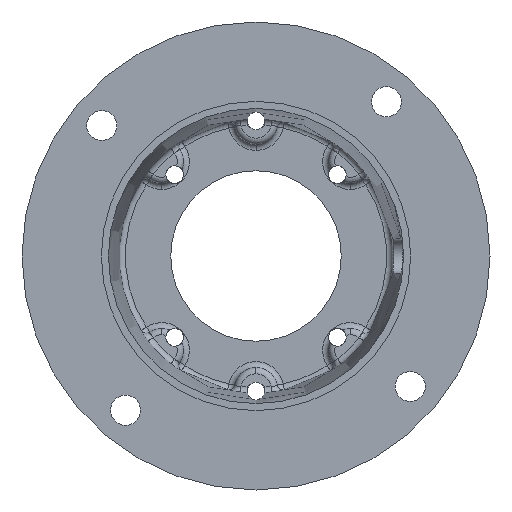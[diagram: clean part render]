
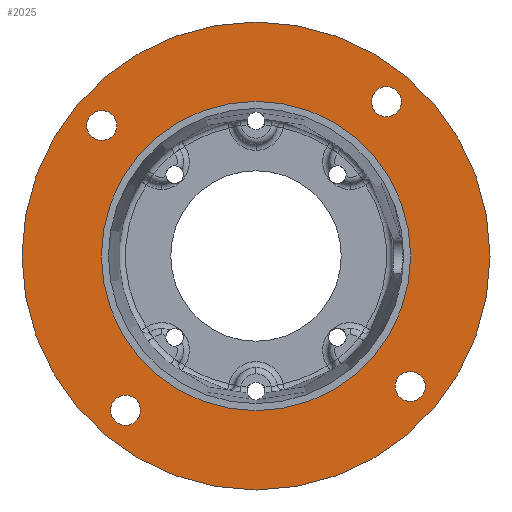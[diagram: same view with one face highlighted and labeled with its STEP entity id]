
A CAD part, front view. The second image highlights one B-rep face of the part: STEP entity #2025.
In plain terms, the highlighted planar face has unit normal (0, -1, 0).
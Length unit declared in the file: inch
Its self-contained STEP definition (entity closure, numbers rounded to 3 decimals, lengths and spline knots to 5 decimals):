
#89 = FACE_BOUND ( 'NONE', #196, .T. ) ;
#136 = ORIENTED_EDGE ( 'NONE', *, *, #2007, .F. ) ;
#196 = EDGE_LOOP ( 'NONE', ( #136, #5390 ) ) ;
#245 = ORIENTED_EDGE ( 'NONE', *, *, #4496, .T. ) ;
#288 = ORIENTED_EDGE ( 'NONE', *, *, #3629, .F. ) ;
#298 = CARTESIAN_POINT ( 'NONE',  ( -1.89861, 0.103, -2.24475 ) ) ;
#452 = ORIENTED_EDGE ( 'NONE', *, *, #2428, .T. ) ;
#536 = DIRECTION ( 'NONE',  ( 0., -1., 0. ) ) ;
#590 = CARTESIAN_POINT ( 'NONE',  ( 0., 0.103, 0. ) ) ;
#658 = CIRCLE ( 'NONE', #6637, 0.21875 ) ;
#665 = DIRECTION ( 'NONE',  ( 0., -1., 0. ) ) ;
#728 = CIRCLE ( 'NONE', #7039, 2.2505 ) ;
#736 = AXIS2_PLACEMENT_3D ( 'NONE', #590, #1851, #6223 ) ;
#852 = AXIS2_PLACEMENT_3D ( 'NONE', #6250, #2506, #6878 ) ;
#924 = DIRECTION ( 'NONE',  ( 0., 0., -1. ) ) ;
#1075 = CARTESIAN_POINT ( 'NONE',  ( -1.89861, 0.103, -2.4635 ) ) ;
#1104 = CARTESIAN_POINT ( 'NONE',  ( 0., 0.103, -3.405 ) ) ;
#1176 = VERTEX_POINT ( 'NONE', #1075 ) ;
#1190 = CIRCLE ( 'NONE', #6295, 0.21875 ) ;
#1257 = CARTESIAN_POINT ( 'NONE',  ( 0., 0.103, -2.2505 ) ) ;
#1456 = VERTEX_POINT ( 'NONE', #6779 ) ;
#1535 = FACE_BOUND ( 'NONE', #3721, .T. ) ;
#1665 = DIRECTION ( 'NONE',  ( 0., -1., 0. ) ) ;
#1735 = FACE_BOUND ( 'NONE', #5560, .T. ) ;
#1758 = CARTESIAN_POINT ( 'NONE',  ( 2.24475, 0.103, -1.67986 ) ) ;
#1851 = DIRECTION ( 'NONE',  ( 0., -1., 0. ) ) ;
#1886 = DIRECTION ( 'NONE',  ( 0., -1., 0. ) ) ;
#1918 = EDGE_CURVE ( 'NONE', #2775, #4455, #6926, .T. ) ;
#1993 = CARTESIAN_POINT ( 'NONE',  ( -2.24475, 0.103, 1.89861 ) ) ;
#2007 = EDGE_CURVE ( 'NONE', #1456, #4417, #3597, .T. ) ;
#2025 = ADVANCED_FACE ( 'NONE', ( #1735, #4871, #89, #3217, #1535, #8015 ), #8040, .T. ) ;
#2140 = CARTESIAN_POINT ( 'NONE',  ( -2.24475, 0.103, 2.11736 ) ) ;
#2208 = CARTESIAN_POINT ( 'NONE',  ( 2.24475, 0.103, -1.89861 ) ) ;
#2229 = VERTEX_POINT ( 'NONE', #4541 ) ;
#2428 = EDGE_CURVE ( 'NONE', #2463, #5367, #5149, .T. ) ;
#2463 = VERTEX_POINT ( 'NONE', #5205 ) ;
#2506 = DIRECTION ( 'NONE',  ( 0., -1., 0. ) ) ;
#2542 = CIRCLE ( 'NONE', #4651, 0.21875 ) ;
#2566 = AXIS2_PLACEMENT_3D ( 'NONE', #5405, #1665, #6034 ) ;
#2619 = DIRECTION ( 'NONE',  ( 0., 0., -1. ) ) ;
#2653 = DIRECTION ( 'NONE',  ( 0., -1., 0. ) ) ;
#2695 = EDGE_CURVE ( 'NONE', #6726, #3406, #658, .T. ) ;
#2775 = VERTEX_POINT ( 'NONE', #4219 ) ;
#2831 = EDGE_LOOP ( 'NONE', ( #3604, #288 ) ) ;
#2845 = DIRECTION ( 'NONE',  ( 0., 0., -1. ) ) ;
#2892 = ORIENTED_EDGE ( 'NONE', *, *, #8052, .F. ) ;
#3110 = CARTESIAN_POINT ( 'NONE',  ( 1.89861, 0.103, 2.24475 ) ) ;
#3134 = EDGE_LOOP ( 'NONE', ( #245, #452 ) ) ;
#3217 = FACE_BOUND ( 'NONE', #3499, .T. ) ;
#3234 = CARTESIAN_POINT ( 'NONE',  ( -2.24475, 0.103, 1.67986 ) ) ;
#3406 = VERTEX_POINT ( 'NONE', #2140 ) ;
#3448 = CARTESIAN_POINT ( 'NONE',  ( 0., 0.103, 0. ) ) ;
#3492 = DIRECTION ( 'NONE',  ( 0., -1., 0. ) ) ;
#3499 = EDGE_LOOP ( 'NONE', ( #3809, #5881 ) ) ;
#3597 = CIRCLE ( 'NONE', #7175, 0.21875 ) ;
#3604 = ORIENTED_EDGE ( 'NONE', *, *, #2695, .F. ) ;
#3629 = EDGE_CURVE ( 'NONE', #3406, #6726, #7338, .T. ) ;
#3721 = EDGE_LOOP ( 'NONE', ( #7389, #4547 ) ) ;
#3732 = DIRECTION ( 'NONE',  ( 0., 0., -1. ) ) ;
#3763 = CIRCLE ( 'NONE', #852, 0.21875 ) ;
#3809 = ORIENTED_EDGE ( 'NONE', *, *, #3954, .F. ) ;
#3907 = EDGE_CURVE ( 'NONE', #4417, #1456, #4524, .T. ) ;
#3954 = EDGE_CURVE ( 'NONE', #1176, #2229, #1190, .T. ) ;
#4094 = DIRECTION ( 'NONE',  ( 0., 0., -1. ) ) ;
#4219 = CARTESIAN_POINT ( 'NONE',  ( 0., 0.103, 2.2505 ) ) ;
#4302 = CARTESIAN_POINT ( 'NONE',  ( 2.24475, 0.103, -1.89861 ) ) ;
#4317 = VERTEX_POINT ( 'NONE', #4716 ) ;
#4378 = AXIS2_PLACEMENT_3D ( 'NONE', #5613, #1886, #6252 ) ;
#4417 = VERTEX_POINT ( 'NONE', #1758 ) ;
#4434 = CARTESIAN_POINT ( 'NONE',  ( 0., 0.103, 0. ) ) ;
#4440 = AXIS2_PLACEMENT_3D ( 'NONE', #4434, #665, #5035 ) ;
#4455 = VERTEX_POINT ( 'NONE', #1257 ) ;
#4496 = EDGE_CURVE ( 'NONE', #5367, #2463, #7881, .T. ) ;
#4524 = CIRCLE ( 'NONE', #4623, 0.21875 ) ;
#4541 = CARTESIAN_POINT ( 'NONE',  ( -1.89861, 0.103, -2.026 ) ) ;
#4547 = ORIENTED_EDGE ( 'NONE', *, *, #1918, .F. ) ;
#4623 = AXIS2_PLACEMENT_3D ( 'NONE', #2208, #6575, #2845 ) ;
#4651 = AXIS2_PLACEMENT_3D ( 'NONE', #298, #4677, #924 ) ;
#4677 = DIRECTION ( 'NONE',  ( 0., -1., 0. ) ) ;
#4716 = CARTESIAN_POINT ( 'NONE',  ( 1.89861, 0.103, 2.4635 ) ) ;
#4871 = FACE_BOUND ( 'NONE', #2831, .T. ) ;
#4911 = DIRECTION ( 'NONE',  ( 0., 0., -1. ) ) ;
#5033 = EDGE_CURVE ( 'NONE', #4455, #2775, #728, .T. ) ;
#5035 = DIRECTION ( 'NONE',  ( 0., 0., -1. ) ) ;
#5149 = CIRCLE ( 'NONE', #7219, 3.405 ) ;
#5205 = CARTESIAN_POINT ( 'NONE',  ( 0., 0.103, 3.405 ) ) ;
#5367 = VERTEX_POINT ( 'NONE', #1104 ) ;
#5390 = ORIENTED_EDGE ( 'NONE', *, *, #3907, .F. ) ;
#5405 = CARTESIAN_POINT ( 'NONE',  ( 0., 0.103, 0. ) ) ;
#5505 = EDGE_CURVE ( 'NONE', #4317, #7628, #3763, .T. ) ;
#5560 = EDGE_LOOP ( 'NONE', ( #2892, #5580 ) ) ;
#5580 = ORIENTED_EDGE ( 'NONE', *, *, #5505, .F. ) ;
#5613 = CARTESIAN_POINT ( 'NONE',  ( -2.24475, 0.103, 1.89861 ) ) ;
#5881 = ORIENTED_EDGE ( 'NONE', *, *, #7673, .F. ) ;
#6034 = DIRECTION ( 'NONE',  ( 0., 0., -1. ) ) ;
#6223 = DIRECTION ( 'NONE',  ( 0., 0., -1. ) ) ;
#6250 = CARTESIAN_POINT ( 'NONE',  ( 1.89861, 0.103, 2.24475 ) ) ;
#6252 = DIRECTION ( 'NONE',  ( 0., 0., -1. ) ) ;
#6295 = AXIS2_PLACEMENT_3D ( 'NONE', #7238, #3492, #7884 ) ;
#6365 = DIRECTION ( 'NONE',  ( 0., -1., 0. ) ) ;
#6401 = CARTESIAN_POINT ( 'NONE',  ( 0., 0.103, 0. ) ) ;
#6575 = DIRECTION ( 'NONE',  ( 0., -1., 0. ) ) ;
#6637 = AXIS2_PLACEMENT_3D ( 'NONE', #1993, #6365, #2619 ) ;
#6726 = VERTEX_POINT ( 'NONE', #3234 ) ;
#6779 = CARTESIAN_POINT ( 'NONE',  ( 2.24475, 0.103, -2.11736 ) ) ;
#6878 = DIRECTION ( 'NONE',  ( 0., 0., -1. ) ) ;
#6926 = CIRCLE ( 'NONE', #2566, 2.2505 ) ;
#7027 = DIRECTION ( 'NONE',  ( 0., 0., -1. ) ) ;
#7039 = AXIS2_PLACEMENT_3D ( 'NONE', #3448, #7835, #4094 ) ;
#7175 = AXIS2_PLACEMENT_3D ( 'NONE', #4302, #536, #4911 ) ;
#7219 = AXIS2_PLACEMENT_3D ( 'NONE', #6401, #2653, #7027 ) ;
#7238 = CARTESIAN_POINT ( 'NONE',  ( -1.89861, 0.103, -2.24475 ) ) ;
#7338 = CIRCLE ( 'NONE', #4378, 0.21875 ) ;
#7389 = ORIENTED_EDGE ( 'NONE', *, *, #5033, .F. ) ;
#7421 = AXIS2_PLACEMENT_3D ( 'NONE', #3110, #7479, #3732 ) ;
#7479 = DIRECTION ( 'NONE',  ( 0., -1., 0. ) ) ;
#7628 = VERTEX_POINT ( 'NONE', #7765 ) ;
#7673 = EDGE_CURVE ( 'NONE', #2229, #1176, #2542, .T. ) ;
#7765 = CARTESIAN_POINT ( 'NONE',  ( 1.89861, 0.103, 2.026 ) ) ;
#7827 = CIRCLE ( 'NONE', #7421, 0.21875 ) ;
#7835 = DIRECTION ( 'NONE',  ( 0., -1., 0. ) ) ;
#7881 = CIRCLE ( 'NONE', #4440, 3.405 ) ;
#7884 = DIRECTION ( 'NONE',  ( 0., 0., -1. ) ) ;
#8015 = FACE_OUTER_BOUND ( 'NONE', #3134, .T. ) ;
#8040 = PLANE ( 'NONE',  #736 ) ;
#8052 = EDGE_CURVE ( 'NONE', #7628, #4317, #7827, .T. ) ;
